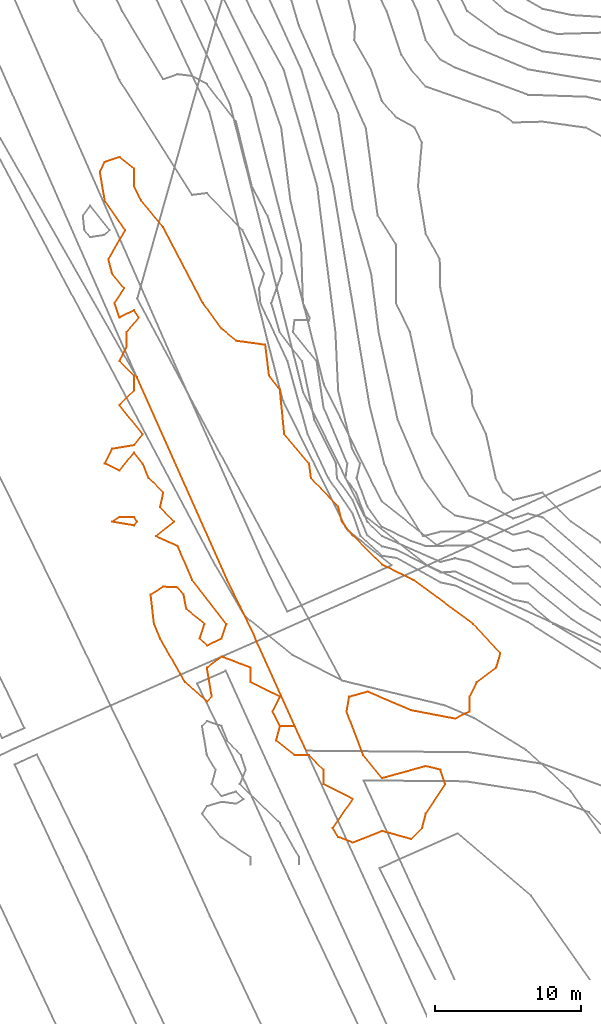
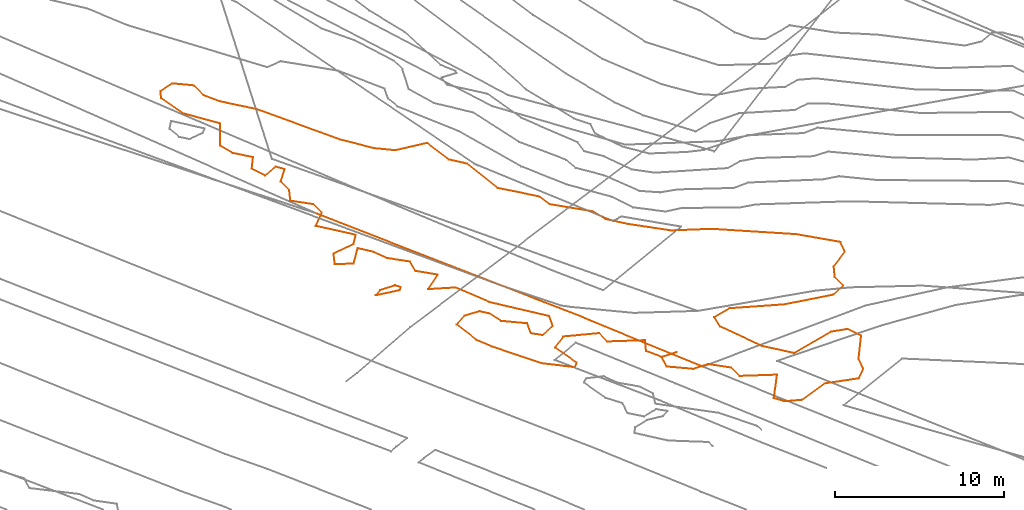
# Not in any storey, part 103 of 419: 3 proxies.
"""IFC2X3 model written with IfcOpenShell, lengths in metres."""

from ifc_helpers import new_model, entity, si_unit, frame, origin_with_axes, place, context, subcontext, project, element, save


model = new_model("IFC2X3")

# Units and contexts
model_context = context("Model", 3, precision=1e-05, world=origin_with_axes())
body_context = subcontext(model_context, "Body", "Model", "MODEL_VIEW")
ifc_project = project(units=[si_unit("AREAUNIT", "SQUARE_METRE"), si_unit("LENGTHUNIT", "METRE")], contexts=[model_context])

# Proxies
proxy_1_placement = place(None, frame((107.2920204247, 31.7976909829, 1.3), z_axis=(0.0, 0.0, 1.0), x_axis=(1.0, 0.0, 0.0)))
element("IfcBuildingElementProxy", 1, at=proxy_1_placement, Name="Route 15", ObjectType="NOTDEFINED", context=body_context, shape_type="GeometricCurveSet", body=[
    entity("IfcGeometricCurveSet", [entity("IfcPolyline", [entity("IfcCartesianPoint", [11.6000000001, -25.6000000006, 0.4]), entity("IfcCartesianPoint", [8.2000000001, -18.1000000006, 0.4]), entity("IfcCartesianPoint", [8.0, -17.6000000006, 0.4]), entity("IfcCartesianPoint", [6.2000000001, -13.9000000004, 0.4]), entity("IfcCartesianPoint", [0.0, 0.0, 0.0])])]),
])
proxy_2_placement = place(None, frame((105.5920454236, 21.8976909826, 2.0), z_axis=(0.0, 0.0, 1.0), x_axis=(1.0, 0.0, 0.0)))
element("IfcBuildingElementProxy", 2, at=proxy_2_placement, Name="Contour 2.0 m", ObjectType="NOTDEFINED", context=body_context, shape_type="GeometricCurveSet", body=[
    entity("IfcGeometricCurveSet", [entity("IfcPolyline", [entity("IfcCartesianPoint", [1.4999750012, -0.25, 0.0]), entity("IfcCartesianPoint", [1.6999750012, 0.0, 0.0]), entity("IfcCartesianPoint", [1.4999750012, 0.333333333, 0.0]), entity("IfcCartesianPoint", [0.4999750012, 0.333333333, 0.0]), entity("IfcCartesianPoint", [0.0, 0.0, 0.0]), entity("IfcCartesianPoint", [1.4999750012, -0.25, 0.0])])]),
])
proxy_3_placement = place(None, frame((104.7586870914, 45.8976909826, 2.0), z_axis=(0.0, 0.0, 1.0), x_axis=(1.0, 0.0, 0.0)))
element("IfcBuildingElementProxy", 3, at=proxy_3_placement, Name="Contour 2.0 m", ObjectType="NOTDEFINED", context=body_context, shape_type="GeometricCurveSet", body=[
    entity("IfcGeometricCurveSet", [entity("IfcPolyline", [entity("IfcCartesianPoint", [21.3333333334, -45.75, 0.0]), entity("IfcCartesianPoint", [22.0833333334, -45.0, 0.0]), entity("IfcCartesianPoint", [22.3333083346, -44.0, 0.0]), entity("IfcCartesianPoint", [23.6666666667, -42.0, 0.0]), entity("IfcCartesianPoint", [23.3333333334, -41.0000499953, 0.0]), entity("IfcCartesianPoint", [22.3333333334, -40.75, 0.0]), entity("IfcCartesianPoint", [19.3333333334, -41.5714285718, 0.0]), entity("IfcCartesianPoint", [18.0476190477, -40.0, 0.0]), entity("IfcCartesianPoint", [16.9047622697, -37.0, 0.0]), entity("IfcCartesianPoint", [17.0833333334, -36.0, 0.0]), entity("IfcCartesianPoint", [18.3333333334, -35.6470590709, 0.0]), entity("IfcCartesianPoint", [21.3333333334, -36.9230769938, 0.0]), entity("IfcCartesianPoint", [24.3333333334, -37.4999750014, 0.0]), entity("IfcCartesianPoint", [25.3332833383, -37.0, 0.0]), entity("IfcCartesianPoint", [25.3332333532, -36.0, 0.0]), entity("IfcCartesianPoint", [25.8333083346, -35.0, 0.0]), entity("IfcCartesianPoint", [27.1666666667, -34.0, 0.0]), entity("IfcCartesianPoint", [27.4444444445, -33.0, 0.0]), entity("IfcCartesianPoint", [25.5833333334, -31.0, 0.0]), entity("IfcCartesianPoint", [21.4946235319, -28.0, 0.0]), entity("IfcCartesianPoint", [19.3333333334, -26.9454545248, 0.0]), entity("IfcCartesianPoint", [17.377450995, -25.0, 0.0]), entity("IfcCartesianPoint", [16.5833334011, -24.0, 0.0]), entity("IfcCartesianPoint", [16.3333333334, -22.9529412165, 0.0]), entity("IfcCartesianPoint", [14.467948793, -21.0, 0.0]), entity("IfcCartesianPoint", [14.3333250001, -20.0, 0.0]), entity("IfcCartesianPoint", [12.6333333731, -18.0, 0.0]), entity("IfcCartesianPoint", [12.3333333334, -14.9333334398, 0.0]), entity("IfcCartesianPoint", [11.5964908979, -14.0, 0.0]), entity("IfcCartesianPoint", [11.3333333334, -11.8750001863, 0.0]), entity("IfcCartesianPoint", [9.3333333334, -11.5999999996, 0.0]), entity("IfcCartesianPoint", [8.3333333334, -10.769230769, 0.0]), entity("IfcCartesianPoint", [7.0555557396, -9.0, 0.0]), entity("IfcCartesianPoint", [4.3333333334, -3.7999999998, 0.0]), entity("IfcCartesianPoint", [2.8333083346, -2.0, 0.0]), entity("IfcCartesianPoint", [2.3333083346, -1.0, 0.0]), entity("IfcCartesianPoint", [2.3333333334, 0.1874997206, 0.0]), entity("IfcCartesianPoint", [1.3333333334, 0.9999875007, 0.0]), entity("IfcCartesianPoint", [0.3333333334, 0.666666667, 0.0]), entity("IfcCartesianPoint", [0.0, 0.0, 0.0]), entity("IfcCartesianPoint", [0.3333583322, -2.0, 0.0]), entity("IfcCartesianPoint", [1.7333333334, -4.0, 0.0]), entity("IfcCartesianPoint", [0.5833333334, -6.0, 0.0]), entity("IfcCartesianPoint", [0.8333458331, -7.0, 0.0]), entity("IfcCartesianPoint", [1.6666666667, -8.0, 0.0]), entity("IfcCartesianPoint", [1.0, -9.0, 0.0]), entity("IfcCartesianPoint", [1.3333333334, -9.9999000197, 0.0]), entity("IfcCartesianPoint", [2.3333333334, -9.4999500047, 0.0]), entity("IfcCartesianPoint", [2.6666666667, -10.0, 0.0]), entity("IfcCartesianPoint", [1.8333833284, -11.0, 0.0]), entity("IfcCartesianPoint", [1.8333833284, -12.0, 0.0]), entity("IfcCartesianPoint", [1.3333666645, -13.0, 0.0]), entity("IfcCartesianPoint", [2.3333833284, -14.0, 0.0]), entity("IfcCartesianPoint", [2.3333833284, -15.0, 0.0]), entity("IfcCartesianPoint", [1.3334333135, -16.0, 0.0]), entity("IfcCartesianPoint", [2.9333333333, -18.0, 0.0]), entity("IfcCartesianPoint", [2.3333333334, -18.75, 0.0]), entity("IfcCartesianPoint", [0.8333833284, -19.0, 0.0]), entity("IfcCartesianPoint", [0.3334333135, -20.0, 0.0]), entity("IfcCartesianPoint", [1.3333333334, -20.4999500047, 0.0]), entity("IfcCartesianPoint", [2.3333333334, -19.25, 0.0]), entity("IfcCartesianPoint", [2.9333333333, -20.0, 0.0]), entity("IfcCartesianPoint", [3.3333333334, -20.9999500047, 0.0]), entity("IfcCartesianPoint", [4.3334333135, -22.0, 0.0]), entity("IfcCartesianPoint", [4.1333333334, -23.0, 0.0]), entity("IfcCartesianPoint", [5.0833333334, -24.0, 0.0]), entity("IfcCartesianPoint", [3.8333833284, -25.0, 0.0]), entity("IfcCartesianPoint", [5.3333333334, -25.666666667, 0.0]), entity("IfcCartesianPoint", [6.3333333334, -27.9999750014, 0.0]), entity("IfcCartesianPoint", [8.6666666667, -31.0, 0.0]), entity("IfcCartesianPoint", [8.3333333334, -32.0000999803, 0.0]), entity("IfcCartesianPoint", [7.3333333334, -32.5000249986, 0.0]), entity("IfcCartesianPoint", [6.8333083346, -32.0, 0.0]), entity("IfcCartesianPoint", [7.1666666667, -31.0, 0.0]), entity("IfcCartesianPoint", [5.9333333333, -30.0, 0.0]), entity("IfcCartesianPoint", [5.7333333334, -29.0, 0.0]), entity("IfcCartesianPoint", [5.3333333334, -28.5000249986, 0.0]), entity("IfcCartesianPoint", [4.3333333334, -28.4545454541, 0.0]), entity("IfcCartesianPoint", [3.4761904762, -29.0, 0.0]), entity("IfcCartesianPoint", [3.7083333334, -31.0, 0.0]), entity("IfcCartesianPoint", [4.1333333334, -32.0, 0.0]), entity("IfcCartesianPoint", [5.8333833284, -35.0, 0.0]), entity("IfcCartesianPoint", [7.3333333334, -36.333333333, 0.0]), entity("IfcCartesianPoint", [7.6666666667, -36.0, 0.0]), entity("IfcCartesianPoint", [7.3332833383, -34.0, 0.0]), entity("IfcCartesianPoint", [8.3333333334, -33.25, 0.0]), entity("IfcCartesianPoint", [10.3333333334, -33.9999000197, 0.0]), entity("IfcCartesianPoint", [10.3333666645, -35.0, 0.0]), entity("IfcCartesianPoint", [12.3334333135, -36.0, 0.0]), entity("IfcCartesianPoint", [11.8333833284, -37.0, 0.0]), entity("IfcCartesianPoint", [12.3333333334, -37.9999000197, 0.0]), entity("IfcCartesianPoint", [13.3334333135, -38.0, 0.0]), entity("IfcCartesianPoint", [12.3333333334, -38.0000999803, 0.0]), entity("IfcCartesianPoint", [12.0833333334, -39.0, 0.0]), entity("IfcCartesianPoint", [13.3333333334, -39.9999000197, 0.0]), entity("IfcCartesianPoint", [14.3333333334, -39.9999000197, 0.0]), entity("IfcCartesianPoint", [15.3333666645, -41.0, 0.0]), entity("IfcCartesianPoint", [15.3334333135, -42.0, 0.0]), entity("IfcCartesianPoint", [17.3333583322, -43.0, 0.0]), entity("IfcCartesianPoint", [15.9583333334, -45.0, 0.0]), entity("IfcCartesianPoint", [16.3333333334, -45.5999999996, 0.0]), entity("IfcCartesianPoint", [17.3333333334, -45.9999666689, 0.0]), entity("IfcCartesianPoint", [19.3333333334, -45.2000000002, 0.0]), entity("IfcCartesianPoint", [21.3333333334, -45.75, 0.0])])]),
])

save(model, "model.ifc")
